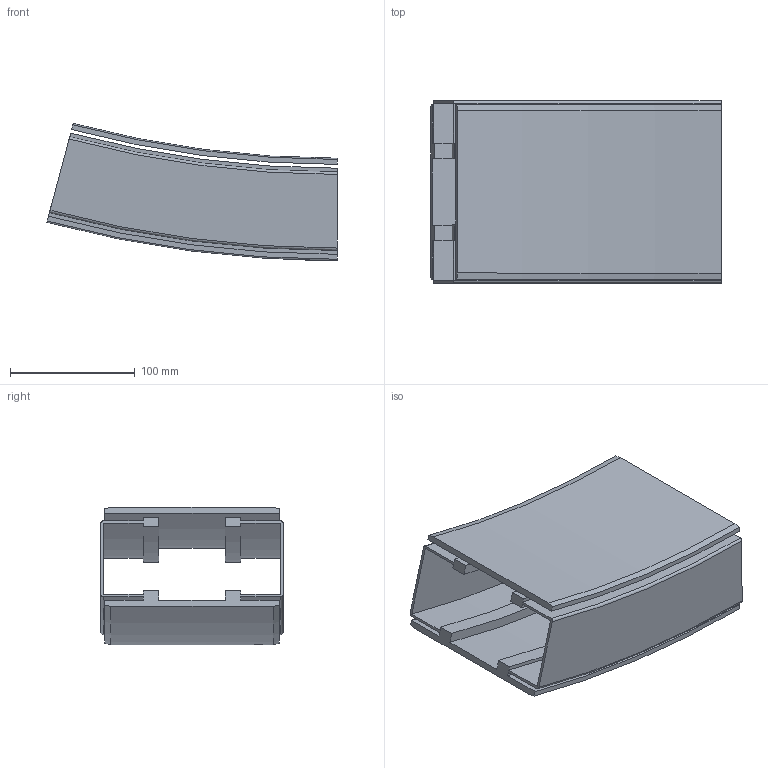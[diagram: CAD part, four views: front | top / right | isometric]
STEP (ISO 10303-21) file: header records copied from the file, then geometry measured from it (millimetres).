
FILE_DESCRIPTION(/* description */ ('VERTIKALKURVA S540 R860'),/* implementation_level */ '2;1');
FILE_NAME(/* name */ '540-5695+140-2000-NER-01.stp',/* time_stamp */ '2022-09-21T11:23:21+02:00',/* author */ ('Mathias.Dore'),/* organization */ ('CARRYLINE'),/* preprocessor_version */ 'ST-DEVELOPER v19.2',/* originating_system */ 'Autodesk Inventor 2023',/* authorisation */ '');
FILE_SCHEMA (('AUTOMOTIVE_DESIGN { 1 0 10303 214 3 1 1 }'));
Length unit declared in the file: millimetre
Products named in the file (1): 540-5695+140-2000-NER-01
Bounding box: 232.81 x 146 x 109.86 mm (x, y, z)
Volume: 516066.8 mm3; surface area: 271161.3 mm2
Topology: 2 solids, 2 shells, 87 faces, 234 edges, 156 vertices
Faces by surface type: plane 40, cylinder 25, bspline 14, cone 4, torus 4
Entity records: 7369 total; most frequent: CARTESIAN_POINT 5170, ORIENTED_EDGE 468, DIRECTION 408, EDGE_CURVE 234, VERTEX_POINT 156, AXIS2_PLACEMENT_3D 141, LINE 126, VECTOR 126
